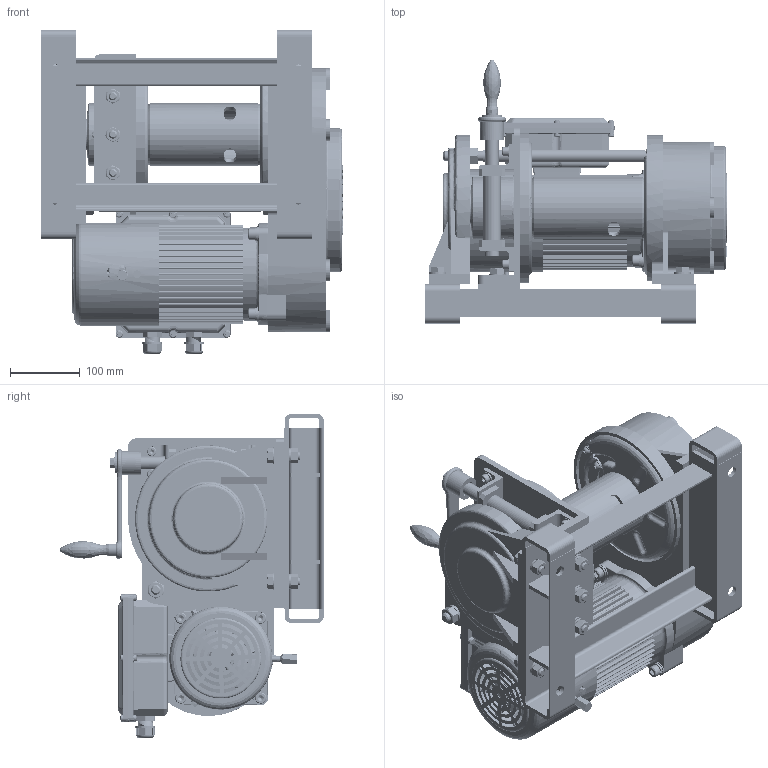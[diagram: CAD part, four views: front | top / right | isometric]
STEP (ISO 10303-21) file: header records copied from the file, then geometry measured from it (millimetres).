
FILE_DESCRIPTION( (''), '2;1');
FILE_NAME ('BMW-101-SC.stp','2023-05-11T17:10:17',(''),(''),'spGate 19.8.2 (****-****-****-****)','','');
FILE_SCHEMA (('AUTOMOTIVE_DESIGN'));
Length unit declared in the file: millimetre
Products named in the file (6): Assembly; BMW-101-SC-prt0; BMW-101-SC-prt1; BMW-101-SC-prt2; BMW-101-SC-prt3; BMW-101-SC-prt4
Assembly tree (5 placements, depth 2):
  Assembly
    BMW-101-SC-prt0
    BMW-101-SC-prt1
    BMW-101-SC-prt2
    BMW-101-SC-prt3
    BMW-101-SC-prt4
Bounding box: 433 x 379.3 x 464.97 mm (x, y, z)
Volume: 14859228 mm3; surface area: 1731841.4 mm2
Topology: 2 solids, 3 shells, 4763 faces, 12593 edges, 7967 vertices
Faces by surface type: plane 2441, cylinder 1409, bspline 841, sphere 72
Entity records: 273504 total; most frequent: CARTESIAN_POINT 61986, ORIENTED_EDGE 25018, DIRECTION 22243, COLOUR_RGB 17278, PRESENTATION_STYLE_ASSIGNMENT 17278, STYLED_ITEM 17278, EDGE_CURVE 12510, DRAUGHTING_PRE_DEFINED_CURVE_FONT 12510
